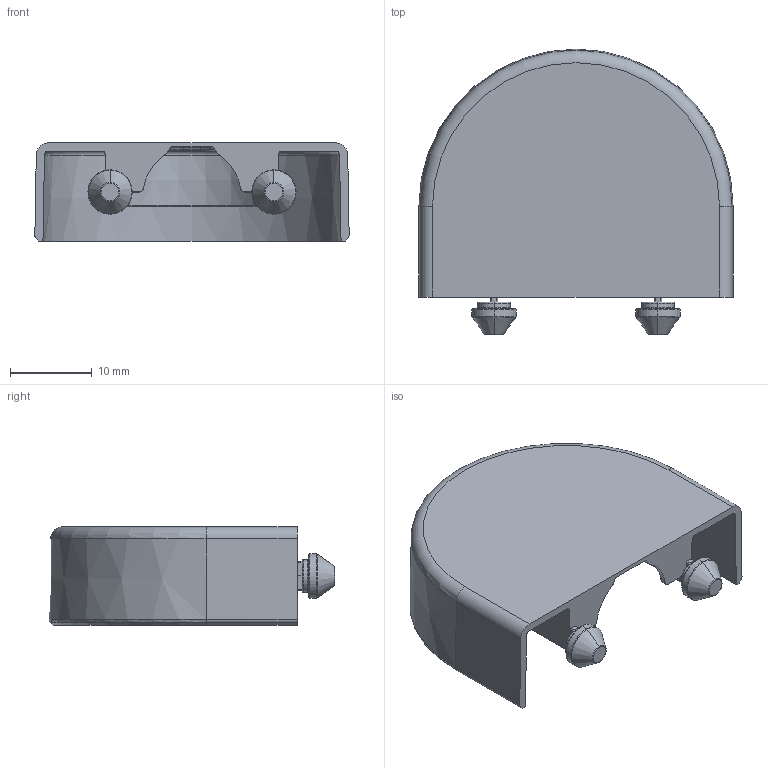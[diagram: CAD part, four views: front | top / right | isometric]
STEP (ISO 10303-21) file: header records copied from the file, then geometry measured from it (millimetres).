
FILE_DESCRIPTION((''),'2;1');
FILE_NAME('16206630_ENDCAP_LLE24','2015-01-20T',('bernhard.fink'),(''),'PRO/ENGINEER BY PARAMETRIC TECHNOLOGY CORPORATION, 2014000','PRO/ENGINEER BY PARAMETRIC TECHNOLOGY CORPORATION, 2014000','');
FILE_SCHEMA(('AUTOMOTIVE_DESIGN { 1 0 10303 214 1 1 1 1 }'));
Length unit declared in the file: millimetre
Products named in the file (1): 16206630_ENDCAP_LLE24
Bounding box: 38.36 x 34.88 x 12 mm (x, y, z)
Volume: 2346.7 mm3; surface area: 4713.7 mm2
Topology: 1 solids, 1 shells, 139 faces, 332 edges, 199 vertices
Faces by surface type: cylinder 47, plane 33, torus 32, bspline 16, cone 11
Entity records: 5964 total; most frequent: CARTESIAN_POINT 1387, DIRECTION 695, ORIENTED_EDGE 664, PRESENTATION_STYLE_ASSIGNMENT 333, STYLED_ITEM 333, CURVE_STYLE 332, EDGE_CURVE 332, AXIS2_PLACEMENT_3D 282
